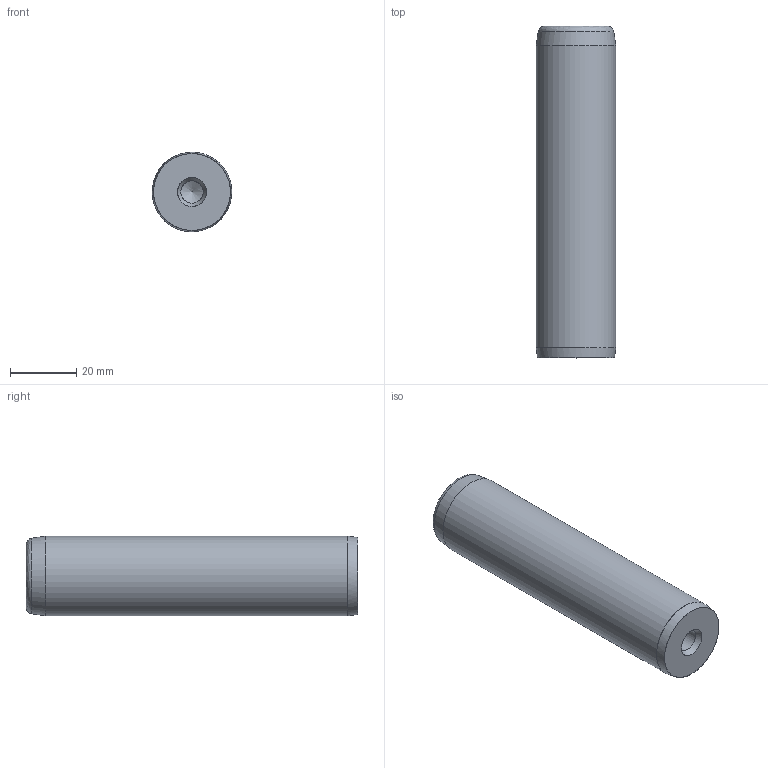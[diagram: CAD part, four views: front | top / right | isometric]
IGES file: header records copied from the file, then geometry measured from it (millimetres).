
Start section: Missler Software BP 521, 31674 Labege Cedex, France Tel   : +33 (0)5 61 00 03 00 Fax   : +33 (0)5 61 00 03 03 Email : sup.topsolid@topsolid.com
Global section: file name: D:\Cuma\D14\D14_24100.igs; native system: TopSolid v605250 Missler Software; preprocessor: IGES preprocessor v100000; date: 030120.192100; units: millimetre
Bounding box: 23.99 x 100 x 24 mm (x, y, z)
Surface area: 9410.2 mm2 (no closed solid volume)
Topology: 0 solids, 0 shells, 14 faces, 145 edges, 136 vertices
Faces by surface type: bspline 14
